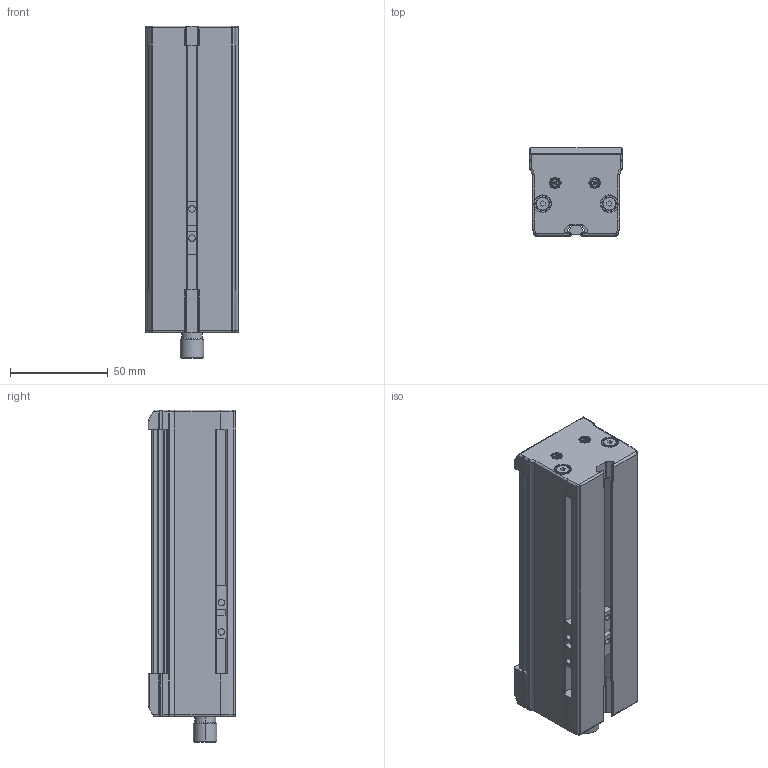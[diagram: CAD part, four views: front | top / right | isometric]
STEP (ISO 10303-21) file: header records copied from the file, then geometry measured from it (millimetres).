
FILE_DESCRIPTION (( 'STEP AP214' ), '1' );
FILE_NAME ('EBAR-HPS-125-xxx-UN.STEP', '2025-11-18T11:48:33', ( '' ), ( '' ), 'SwSTEP 2.0', 'SolidWorks 2025', '' );
FILE_SCHEMA (( 'AUTOMOTIVE_DESIGN' ));
Length unit declared in the file: millimetre
Products named in the file (3): EBAR-HPS-xxx-xxx-xx_CLIENT_125; M4 T-Slot Nut; EBAR-HPS-125-xxx-UN
Assembly tree (7 placements, depth 2):
  EBAR-HPS-125-xxx-UN
    EBAR-HPS-xxx-xxx-xx_CLIENT_125
    M4 T-Slot Nut  x6
Bounding box: 47.63 x 45 x 170.06 mm (x, y, z)
Volume: 276306.6 mm3; surface area: 44004.7 mm2
Topology: 7 solids, 7 shells, 878 faces, 2288 edges, 1484 vertices
Faces by surface type: plane 406, cylinder 246, bspline 140, torus 62, cone 14, sphere 10
Entity records: 29187 total; most frequent: CARTESIAN_POINT 10265, ORIENTED_EDGE 4098, DIRECTION 3542, EDGE_CURVE 2049, VERTEX_POINT 1329, AXIS2_PLACEMENT_3D 1210, LINE 1122, VECTOR 1122
